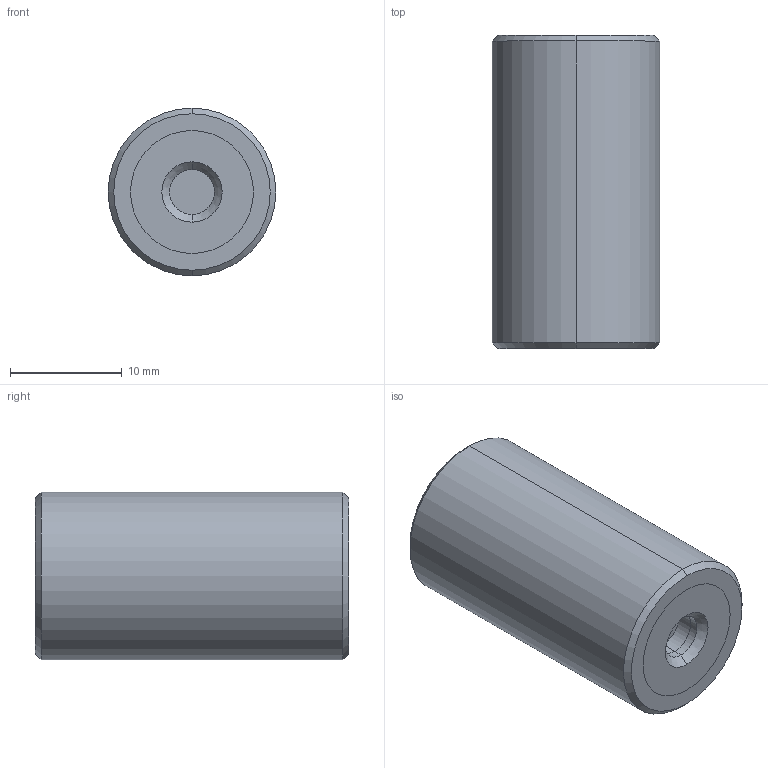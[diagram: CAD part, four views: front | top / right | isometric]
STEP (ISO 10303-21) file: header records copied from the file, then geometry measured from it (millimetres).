
FILE_DESCRIPTION (( 'STEP AP203' ), '1' );
FILE_NAME ('61080.W0155.step', '2018-07-16T20:42:14', ( '' ), ( '' ), 'SwSTEP 2.0', 'SolidWorks 2017', '' );
FILE_SCHEMA (( 'CONFIG_CONTROL_DESIGN' ));
Length unit declared in the file: millimetre
Products named in the file (4): Part1_61080.W0155; Part2_61080.W0155; Part3_61080.W0155; 61080.W0155
Assembly tree (3 placements, depth 2):
  61080.W0155
    Part1_61080.W0155
    Part2_61080.W0155
    Part3_61080.W0155
Bounding box: 15 x 28 x 15 mm (x, y, z)
Volume: 4854.2 mm3; surface area: 2248.2 mm2
Topology: 3 solids, 3 shells, 36 faces, 70 edges, 44 vertices
Faces by surface type: cylinder 18, plane 10, cone 8
Entity records: 1356 total; most frequent: DIRECTION 198, CARTESIAN_POINT 156, ORIENTED_EDGE 140, AXIS2_PLACEMENT_3D 86, EDGE_CURVE 70, EDGE_LOOP 44, CIRCLE 44, VERTEX_POINT 44
